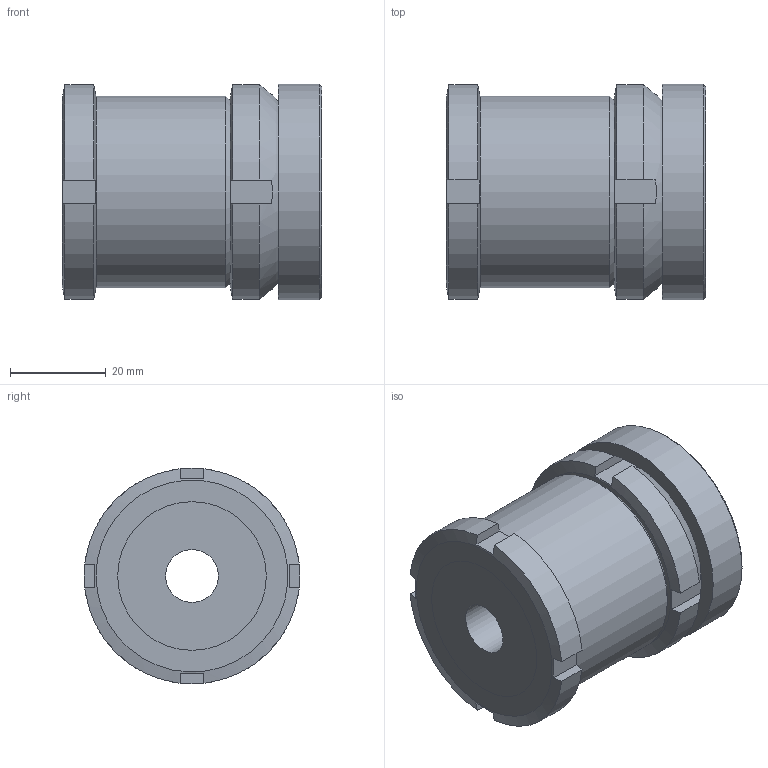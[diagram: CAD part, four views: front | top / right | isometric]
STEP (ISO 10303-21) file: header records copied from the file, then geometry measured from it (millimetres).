
FILE_DESCRIPTION( ( 'STEP AP203' ), '1' );
FILE_NAME( 'C:/Temp/Ganter_Step_05_03_2020/data/3_2/gn350_2/gn_350_2_ni/Stainless Steel-Levelling set GN 350.2-45-11-54-NI (0-0).stp', '2020-03-13T05:28:08', ( 'License CC BY-ND 4.0' ), ( 'CADENAS' ), ' ', 'PARTsolutions', ' ' );
FILE_SCHEMA( ( 'CONFIG_CONTROL_DESIGN' ) );
Length unit declared in the file: millimetre
Products named in the file (4): Stainless Steel-Levelling set GN 350.2-45-11-54-NI (0-0); _Levelling set GN 350.2-45-11-54-ST-G; _Levelling set GN 350.2-45-11-54-ST-K; _Levelling set GN 350.2-45-11-54-ST-P(0)
Assembly tree (3 placements, depth 2):
  Stainless Steel-Levelling set GN 350.2-45-11-54-NI (0-0)
    _Levelling set GN 350.2-45-11-54-ST-G
    _Levelling set GN 350.2-45-11-54-ST-K
    _Levelling set GN 350.2-45-11-54-ST-P(0)
Bounding box: 54 x 45 x 45 mm (x, y, z)
Volume: 67775 mm3; surface area: 23577.6 mm2
Topology: 3 solids, 3 shells, 62 faces, 149 edges, 99 vertices
Faces by surface type: plane 36, cylinder 19, cone 5, sphere 2
Full cylindrical faces by diameter (mm): 11 x1, 22 x1, 24.492 x1, 25.5 x1, 28.376 x1, 30 x2, 31 x2, 40 x1, 45 x1
Entity records: 1925 total; most frequent: CARTESIAN_POINT 462, DIRECTION 276, ORIENTED_EDGE 248, EDGE_CURVE 124, AXIS2_PLACEMENT_3D 122, EDGE_LOOP 92, VERTEX_POINT 92, FACE_OUTER_BOUND 75
